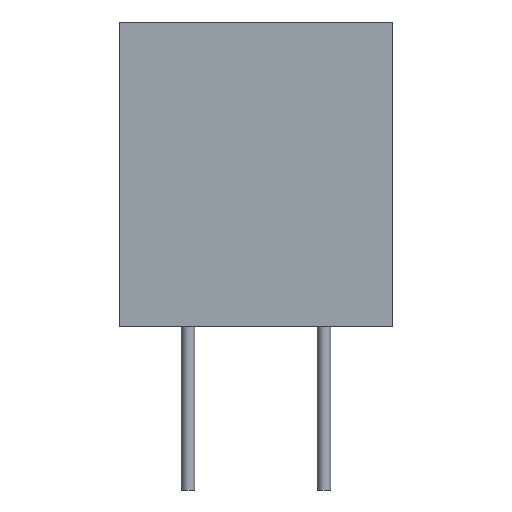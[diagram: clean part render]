
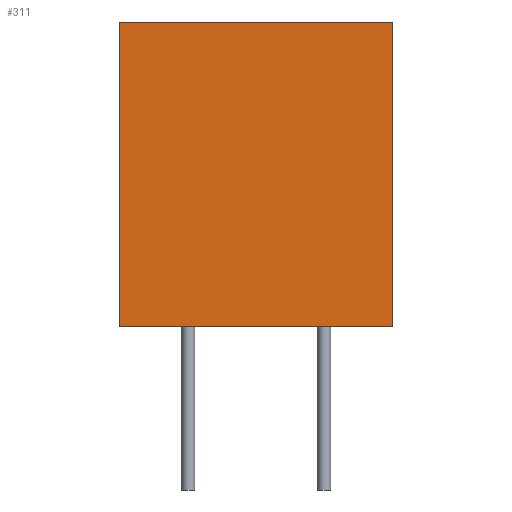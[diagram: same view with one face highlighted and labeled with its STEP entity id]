
A CAD part, front view. The second image highlights one B-rep face of the part: STEP entity #311.
In plain terms, the highlighted planar face has unit normal (0, -1, 0).
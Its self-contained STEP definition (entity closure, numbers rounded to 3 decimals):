
#311=ADVANCED_FACE('',(#317),#312,.T.);
#312=PLANE('',#313);
#313=AXIS2_PLACEMENT_3D('',#314,#315,#316);
#314=CARTESIAN_POINT('',(-1.905,-1.334,0.0));
#315=DIRECTION('',(0.0,-1.0,0.0));
#316=DIRECTION('',(0.,0.,1.));
#317=FACE_OUTER_BOUND('',#318,.T.);
#318=EDGE_LOOP('',(#319,#329,#339,#349));
#322=CARTESIAN_POINT('',(5.715,-1.334,0.0));
#321=VERTEX_POINT('',#322);
#324=CARTESIAN_POINT('',(-1.905,-1.334,0.0));
#323=VERTEX_POINT('',#324);
#320=EDGE_CURVE('',#321,#323,#325,.T.);
#325=LINE('',#322,#327);
#327=VECTOR('',#328,7.62);
#328=DIRECTION('',(-1.0,0.0,0.0));
#319=ORIENTED_EDGE('',*,*,#320,.F.);
#332=CARTESIAN_POINT('',(5.715,-1.334,8.534));
#331=VERTEX_POINT('',#332);
#330=EDGE_CURVE('',#331,#321,#335,.T.);
#335=LINE('',#332,#337);
#337=VECTOR('',#338,8.534);
#338=DIRECTION('',(0.0,0.0,-1.0));
#329=ORIENTED_EDGE('',*,*,#330,.F.);
#342=CARTESIAN_POINT('',(-1.905,-1.334,8.534));
#341=VERTEX_POINT('',#342);
#340=EDGE_CURVE('',#341,#331,#345,.T.);
#345=LINE('',#342,#347);
#347=VECTOR('',#348,7.62);
#348=DIRECTION('',(1.0,0.0,0.0));
#339=ORIENTED_EDGE('',*,*,#340,.F.);
#350=EDGE_CURVE('',#323,#341,#355,.T.);
#355=LINE('',#324,#357);
#357=VECTOR('',#358,8.534);
#358=DIRECTION('',(0.0,0.0,1.0));
#349=ORIENTED_EDGE('',*,*,#350,.F.);
